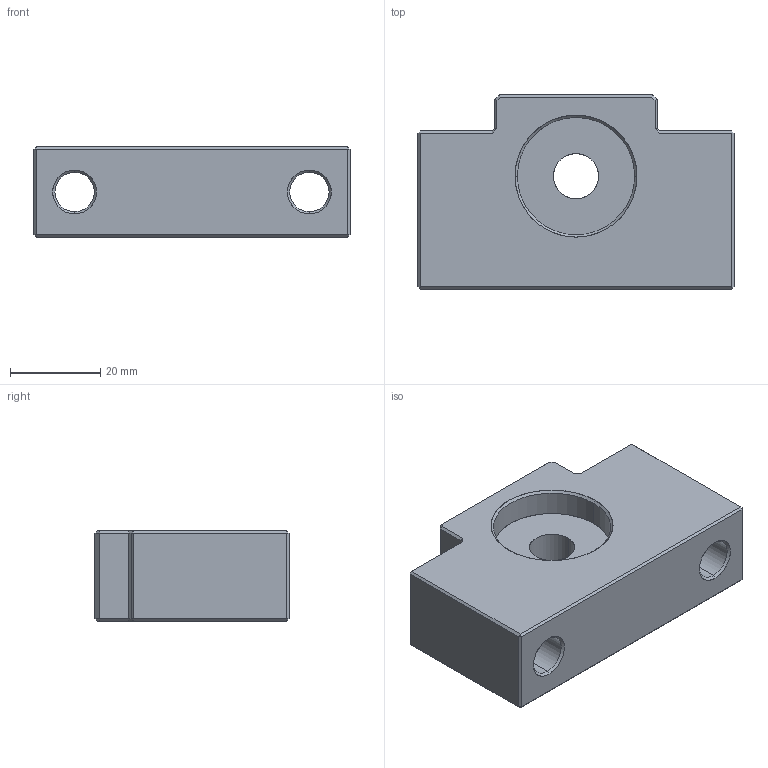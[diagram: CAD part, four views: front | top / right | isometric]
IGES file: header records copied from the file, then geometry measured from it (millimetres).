
Start section: SolidWorks IGES file using analytic representation for surfaces
Global section: file name: E:\同创达图纸\产品示意图\3D选型图\支撑座\AF系列\AF12.IGS; native system: SolidWorks 2012; preprocessor: SolidWorks 2012; author: gao; date: 130702.134938; units: millimetre
Bounding box: 70 x 43 x 20 mm (x, y, z)
Surface area: 12832.5 mm2 (no closed solid volume)
Topology: 0 solids, 0 shells, 80 faces, 766 edges, 764 vertices
Faces by surface type: bspline 54, revolution 26
